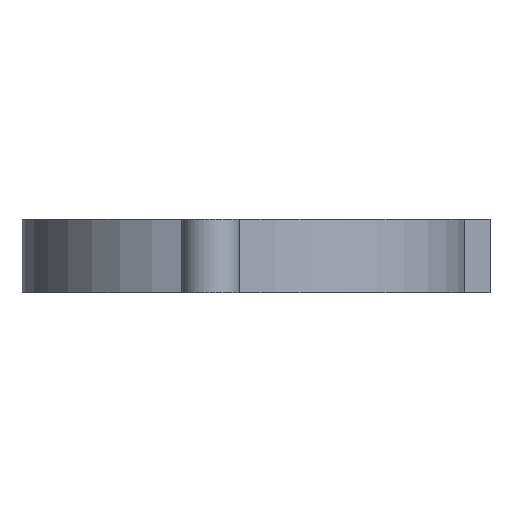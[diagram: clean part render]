
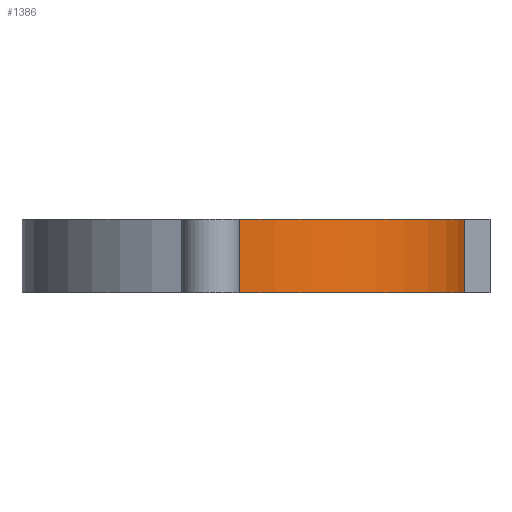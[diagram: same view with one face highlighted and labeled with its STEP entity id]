
A CAD part, front view. The second image highlights one B-rep face of the part: STEP entity #1386.
In plain terms, the highlighted cylindrical face has radius 33.2 mm (diameter 66.4 mm), a partial arc.
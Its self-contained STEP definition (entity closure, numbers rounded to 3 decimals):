
#72 = PLANE('',#73);
#73 = AXIS2_PLACEMENT_3D('',#74,#75,#76);
#74 = CARTESIAN_POINT('',(-33.2,-8.8,0.));
#75 = DIRECTION('',(0.,0.,1.));
#76 = DIRECTION('',(1.,0.,0.));
#126 = PLANE('',#127);
#127 = AXIS2_PLACEMENT_3D('',#128,#129,#130);
#128 = CARTESIAN_POINT('',(-33.2,-8.8,11.));
#129 = DIRECTION('',(0.,0.,1.));
#130 = DIRECTION('',(1.,0.,0.));
#180 = CYLINDRICAL_SURFACE('',#181,4.3);
#181 = AXIS2_PLACEMENT_3D('',#182,#183,#184);
#182 = CARTESIAN_POINT('',(-5.,-43.,0.));
#183 = DIRECTION('',(-0.,-0.,-1.));
#184 = DIRECTION('',(1.,0.,0.));
#330 = VERTEX_POINT('',#331);
#331 = CARTESIAN_POINT('',(-0.82,-41.99,11.));
#353 = EDGE_CURVE('',#330,#354,#356,.T.);
#354 = VERTEX_POINT('',#355);
#355 = CARTESIAN_POINT('',(33.045,-12.,11.));
#356 = SURFACE_CURVE('',#357,(#362,#369),.PCURVE_S1.);
#357 = CIRCLE('',#358,33.2);
#358 = AXIS2_PLACEMENT_3D('',#359,#360,#361);
#359 = CARTESIAN_POINT('',(0.,-8.8,11.));
#360 = DIRECTION('',(0.,0.,1.));
#361 = DIRECTION('',(1.,0.,0.));
#362 = PCURVE('',#126,#363);
#363 = DEFINITIONAL_REPRESENTATION('',(#364),#368);
#364 = CIRCLE('',#365,33.2);
#365 = AXIS2_PLACEMENT_2D('',#366,#367);
#366 = CARTESIAN_POINT('',(33.2,0.));
#367 = DIRECTION('',(1.,0.));
#368 = ( GEOMETRIC_REPRESENTATION_CONTEXT(2) 
PARAMETRIC_REPRESENTATION_CONTEXT() REPRESENTATION_CONTEXT('2D SPACE',''
  ) );
#369 = PCURVE('',#370,#375);
#370 = CYLINDRICAL_SURFACE('',#371,33.2);
#371 = AXIS2_PLACEMENT_3D('',#372,#373,#374);
#372 = CARTESIAN_POINT('',(0.,-8.8,0.));
#373 = DIRECTION('',(-0.,-0.,-1.));
#374 = DIRECTION('',(1.,0.,0.));
#375 = DEFINITIONAL_REPRESENTATION('',(#376),#380);
#376 = LINE('',#377,#378);
#377 = CARTESIAN_POINT('',(-0.,-11.));
#378 = VECTOR('',#379,1.);
#379 = DIRECTION('',(-1.,0.));
#380 = ( GEOMETRIC_REPRESENTATION_CONTEXT(2) 
PARAMETRIC_REPRESENTATION_CONTEXT() REPRESENTATION_CONTEXT('2D SPACE',''
  ) );
#398 = PLANE('',#399);
#399 = AXIS2_PLACEMENT_3D('',#400,#401,#402);
#400 = CARTESIAN_POINT('',(30.157,-12.,0.));
#401 = DIRECTION('',(0.,1.,0.));
#402 = DIRECTION('',(0.,0.,1.));
#912 = VERTEX_POINT('',#913);
#913 = CARTESIAN_POINT('',(-0.82,-41.99,0.));
#939 = EDGE_CURVE('',#912,#940,#942,.T.);
#940 = VERTEX_POINT('',#941);
#941 = CARTESIAN_POINT('',(33.045,-12.,0.));
#942 = SURFACE_CURVE('',#943,(#948,#955),.PCURVE_S1.);
#943 = CIRCLE('',#944,33.2);
#944 = AXIS2_PLACEMENT_3D('',#945,#946,#947);
#945 = CARTESIAN_POINT('',(0.,-8.8,0.));
#946 = DIRECTION('',(0.,0.,1.));
#947 = DIRECTION('',(1.,0.,0.));
#948 = PCURVE('',#72,#949);
#949 = DEFINITIONAL_REPRESENTATION('',(#950),#954);
#950 = CIRCLE('',#951,33.2);
#951 = AXIS2_PLACEMENT_2D('',#952,#953);
#952 = CARTESIAN_POINT('',(33.2,0.));
#953 = DIRECTION('',(1.,0.));
#954 = ( GEOMETRIC_REPRESENTATION_CONTEXT(2) 
PARAMETRIC_REPRESENTATION_CONTEXT() REPRESENTATION_CONTEXT('2D SPACE',''
  ) );
#955 = PCURVE('',#370,#956);
#956 = DEFINITIONAL_REPRESENTATION('',(#957),#961);
#957 = LINE('',#958,#959);
#958 = CARTESIAN_POINT('',(-0.,0.));
#959 = VECTOR('',#960,1.);
#960 = DIRECTION('',(-1.,0.));
#961 = ( GEOMETRIC_REPRESENTATION_CONTEXT(2) 
PARAMETRIC_REPRESENTATION_CONTEXT() REPRESENTATION_CONTEXT('2D SPACE',''
  ) );
#1237 = EDGE_CURVE('',#330,#912,#1238,.T.);
#1238 = SURFACE_CURVE('',#1239,(#1243,#1249),.PCURVE_S1.);
#1239 = LINE('',#1240,#1241);
#1240 = CARTESIAN_POINT('',(-0.82,-41.99,0.));
#1241 = VECTOR('',#1242,1.);
#1242 = DIRECTION('',(-0.,-0.,-1.));
#1243 = PCURVE('',#180,#1244);
#1244 = DEFINITIONAL_REPRESENTATION('',(#1245),#1248);
#1245 = B_SPLINE_CURVE_WITH_KNOTS('',1,(#1246,#1247),.UNSPECIFIED.,.F.,
  .F.,(2,2),(-11.,0.),.PIECEWISE_BEZIER_KNOTS.);
#1246 = CARTESIAN_POINT('',(-6.52,-11.));
#1247 = CARTESIAN_POINT('',(-6.52,0.));
#1248 = ( GEOMETRIC_REPRESENTATION_CONTEXT(2) 
PARAMETRIC_REPRESENTATION_CONTEXT() REPRESENTATION_CONTEXT('2D SPACE',''
  ) );
#1249 = PCURVE('',#370,#1250);
#1250 = DEFINITIONAL_REPRESENTATION('',(#1251),#1254);
#1251 = B_SPLINE_CURVE_WITH_KNOTS('',1,(#1252,#1253),.UNSPECIFIED.,.F.,
  .F.,(2,2),(-11.,0.),.PIECEWISE_BEZIER_KNOTS.);
#1252 = CARTESIAN_POINT('',(-4.688,-11.));
#1253 = CARTESIAN_POINT('',(-4.688,0.));
#1254 = ( GEOMETRIC_REPRESENTATION_CONTEXT(2) 
PARAMETRIC_REPRESENTATION_CONTEXT() REPRESENTATION_CONTEXT('2D SPACE',''
  ) );
#1366 = EDGE_CURVE('',#354,#940,#1367,.T.);
#1367 = SURFACE_CURVE('',#1368,(#1372,#1378),.PCURVE_S1.);
#1368 = LINE('',#1369,#1370);
#1369 = CARTESIAN_POINT('',(33.045,-12.,0.));
#1370 = VECTOR('',#1371,1.);
#1371 = DIRECTION('',(-0.,-0.,-1.));
#1372 = PCURVE('',#398,#1373);
#1373 = DEFINITIONAL_REPRESENTATION('',(#1374),#1377);
#1374 = B_SPLINE_CURVE_WITH_KNOTS('',1,(#1375,#1376),.UNSPECIFIED.,.F.,
  .F.,(2,2),(-11.,0.),.PIECEWISE_BEZIER_KNOTS.);
#1375 = CARTESIAN_POINT('',(11.,2.888));
#1376 = CARTESIAN_POINT('',(0.,2.888));
#1377 = ( GEOMETRIC_REPRESENTATION_CONTEXT(2) 
PARAMETRIC_REPRESENTATION_CONTEXT() REPRESENTATION_CONTEXT('2D SPACE',''
  ) );
#1378 = PCURVE('',#370,#1379);
#1379 = DEFINITIONAL_REPRESENTATION('',(#1380),#1383);
#1380 = B_SPLINE_CURVE_WITH_KNOTS('',1,(#1381,#1382),.UNSPECIFIED.,.F.,
  .F.,(2,2),(-11.,0.),.PIECEWISE_BEZIER_KNOTS.);
#1381 = CARTESIAN_POINT('',(-6.187,-11.));
#1382 = CARTESIAN_POINT('',(-6.187,0.));
#1383 = ( GEOMETRIC_REPRESENTATION_CONTEXT(2) 
PARAMETRIC_REPRESENTATION_CONTEXT() REPRESENTATION_CONTEXT('2D SPACE',''
  ) );
#1386 = ADVANCED_FACE('',(#1387),#370,.T.);
#1387 = FACE_BOUND('',#1388,.F.);
#1388 = EDGE_LOOP('',(#1389,#1390,#1391,#1392));
#1389 = ORIENTED_EDGE('',*,*,#353,.T.);
#1390 = ORIENTED_EDGE('',*,*,#1366,.T.);
#1391 = ORIENTED_EDGE('',*,*,#939,.F.);
#1392 = ORIENTED_EDGE('',*,*,#1237,.F.);
